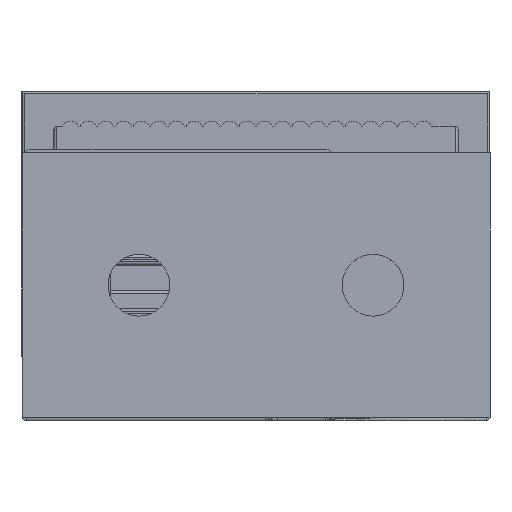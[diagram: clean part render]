
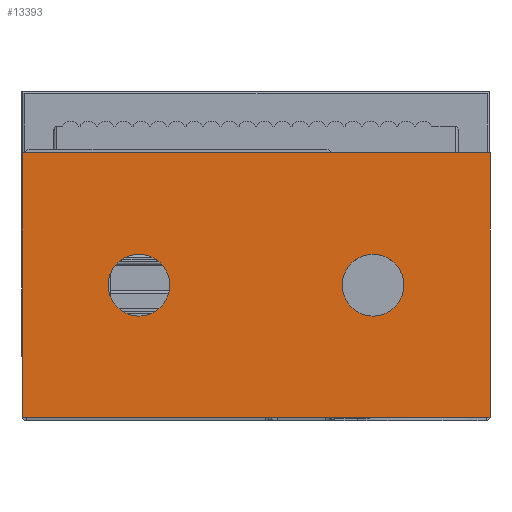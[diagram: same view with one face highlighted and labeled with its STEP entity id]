
A CAD part, top view. The second image highlights one B-rep face of the part: STEP entity #13393.
In plain terms, the highlighted planar face has unit normal (0, 0, 1).
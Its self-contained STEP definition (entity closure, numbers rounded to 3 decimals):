
#1313 = ORIENTED_EDGE ( 'NONE', *, *, #13704, .F. ) ;
#2915 = EDGE_CURVE ( 'NONE', #34180, #9838, #34685, .T. ) ;
#3033 = ORIENTED_EDGE ( 'NONE', *, *, #16082, .F. ) ;
#3950 = EDGE_LOOP ( 'NONE', ( #1313, #35040, #7478, #6486 ) ) ;
#3993 = DIRECTION ( 'NONE',  ( 0., 1., 0. ) ) ;
#4054 = CARTESIAN_POINT ( 'NONE',  ( 6.36, 1.406, 108. ) ) ;
#4182 = DIRECTION ( 'NONE',  ( 0., 1., 0. ) ) ;
#4731 = CARTESIAN_POINT ( 'NONE',  ( 12.98, 10.656, 108. ) ) ;
#4748 = AXIS2_PLACEMENT_3D ( 'NONE', #25955, #7876, #3993 ) ;
#4831 = DIRECTION ( 'NONE',  ( 0., 1., 0. ) ) ;
#6464 = AXIS2_PLACEMENT_3D ( 'NONE', #25223, #31334, #37740 ) ;
#6486 = ORIENTED_EDGE ( 'NONE', *, *, #2915, .F. ) ;
#6576 = DIRECTION ( 'NONE',  ( 0., -1., 0. ) ) ;
#6588 = DIRECTION ( 'NONE',  ( 0., 1., 0. ) ) ;
#7478 = ORIENTED_EDGE ( 'NONE', *, *, #33766, .F. ) ;
#7876 = DIRECTION ( 'NONE',  ( 0., 0., 1. ) ) ;
#8618 = VECTOR ( 'NONE', #10402, 1000. ) ;
#8743 = DIRECTION ( 'NONE',  ( 0., 0., 1. ) ) ;
#9055 = VERTEX_POINT ( 'NONE', #15515 ) ;
#9198 = AXIS2_PLACEMENT_3D ( 'NONE', #26803, #8743, #4831 ) ;
#9640 = ORIENTED_EDGE ( 'NONE', *, *, #39078, .F. ) ;
#9838 = VERTEX_POINT ( 'NONE', #21632 ) ;
#10402 = DIRECTION ( 'NONE',  ( 1., 0., 0. ) ) ;
#11801 = CIRCLE ( 'NONE', #9198, 1.75 ) ;
#12695 = CARTESIAN_POINT ( 'NONE',  ( -6.9, 1.406, 108. ) ) ;
#12819 = CARTESIAN_POINT ( 'NONE',  ( -6.9, 4.906, 108. ) ) ;
#13393 = ADVANCED_FACE ( 'NONE', ( #31751, #24466, #24273 ), #18794, .F. ) ;
#13704 = EDGE_CURVE ( 'NONE', #25624, #34180, #38312, .T. ) ;
#14756 = VECTOR ( 'NONE', #32117, 1000. ) ;
#15515 = CARTESIAN_POINT ( 'NONE',  ( 6.36, 4.906, 108. ) ) ;
#15580 = VERTEX_POINT ( 'NONE', #12819 ) ;
#16082 = EDGE_CURVE ( 'NONE', #32048, #9055, #36676, .T. ) ;
#16392 = VECTOR ( 'NONE', #6576, 1000. ) ;
#16546 = CIRCLE ( 'NONE', #38883, 1.75 ) ;
#17546 = VERTEX_POINT ( 'NONE', #4731 ) ;
#18180 = ORIENTED_EDGE ( 'NONE', *, *, #22253, .F. ) ;
#18647 = VERTEX_POINT ( 'NONE', #12695 ) ;
#18794 = PLANE ( 'NONE',  #6464 ) ;
#19011 = ORIENTED_EDGE ( 'NONE', *, *, #39838, .F. ) ;
#19519 = DIRECTION ( 'NONE',  ( 0., 0., 1. ) ) ;
#21133 = EDGE_LOOP ( 'NONE', ( #9640, #18180 ) ) ;
#21632 = CARTESIAN_POINT ( 'NONE',  ( -13.52, 10.656, 108. ) ) ;
#22253 = EDGE_CURVE ( 'NONE', #18647, #15580, #11801, .T. ) ;
#22465 = CIRCLE ( 'NONE', #4748, 1.75 ) ;
#24273 = FACE_OUTER_BOUND ( 'NONE', #3950, .T. ) ;
#24466 = FACE_BOUND ( 'NONE', #21133, .T. ) ;
#25223 = CARTESIAN_POINT ( 'NONE',  ( -0.27, 3.156, 108. ) ) ;
#25624 = VERTEX_POINT ( 'NONE', #34175 ) ;
#25941 = DIRECTION ( 'NONE',  ( 0., 1., 0. ) ) ;
#25955 = CARTESIAN_POINT ( 'NONE',  ( -6.9, 3.156, 108. ) ) ;
#26251 = VECTOR ( 'NONE', #6588, 1000. ) ;
#26345 = CARTESIAN_POINT ( 'NONE',  ( 6.36, 3.156, 108. ) ) ;
#26392 = CARTESIAN_POINT ( 'NONE',  ( -13.52, -4.344, 108. ) ) ;
#26803 = CARTESIAN_POINT ( 'NONE',  ( -6.9, 3.156, 108. ) ) ;
#27856 = EDGE_CURVE ( 'NONE', #17546, #25624, #38366, .T. ) ;
#29211 = CARTESIAN_POINT ( 'NONE',  ( -13.52, -4.344, 108. ) ) ;
#31334 = DIRECTION ( 'NONE',  ( 0., 0., -1. ) ) ;
#31751 = FACE_BOUND ( 'NONE', #40514, .T. ) ;
#32048 = VERTEX_POINT ( 'NONE', #4054 ) ;
#32117 = DIRECTION ( 'NONE',  ( -1., 0., 0. ) ) ;
#32295 = DIRECTION ( 'NONE',  ( 0., 0., 1. ) ) ;
#32353 = LINE ( 'NONE', #38525, #8618 ) ;
#33766 = EDGE_CURVE ( 'NONE', #9838, #17546, #32353, .T. ) ;
#34175 = CARTESIAN_POINT ( 'NONE',  ( 12.98, -4.344, 108. ) ) ;
#34180 = VERTEX_POINT ( 'NONE', #29211 ) ;
#34291 = CARTESIAN_POINT ( 'NONE',  ( -13.52, 10.656, 108. ) ) ;
#34668 = CARTESIAN_POINT ( 'NONE',  ( 12.98, 10.656, 108. ) ) ;
#34685 = LINE ( 'NONE', #34291, #26251 ) ;
#35040 = ORIENTED_EDGE ( 'NONE', *, *, #27856, .F. ) ;
#36676 = CIRCLE ( 'NONE', #39964, 1.75 ) ;
#37740 = DIRECTION ( 'NONE',  ( 0., -1., 0. ) ) ;
#38312 = LINE ( 'NONE', #26392, #14756 ) ;
#38366 = LINE ( 'NONE', #34668, #16392 ) ;
#38525 = CARTESIAN_POINT ( 'NONE',  ( -13.52, 10.656, 108. ) ) ;
#38666 = CARTESIAN_POINT ( 'NONE',  ( 6.36, 3.156, 108. ) ) ;
#38883 = AXIS2_PLACEMENT_3D ( 'NONE', #38666, #32295, #4182 ) ;
#39078 = EDGE_CURVE ( 'NONE', #15580, #18647, #22465, .T. ) ;
#39838 = EDGE_CURVE ( 'NONE', #9055, #32048, #16546, .T. ) ;
#39964 = AXIS2_PLACEMENT_3D ( 'NONE', #26345, #19519, #25941 ) ;
#40514 = EDGE_LOOP ( 'NONE', ( #19011, #3033 ) ) ;
